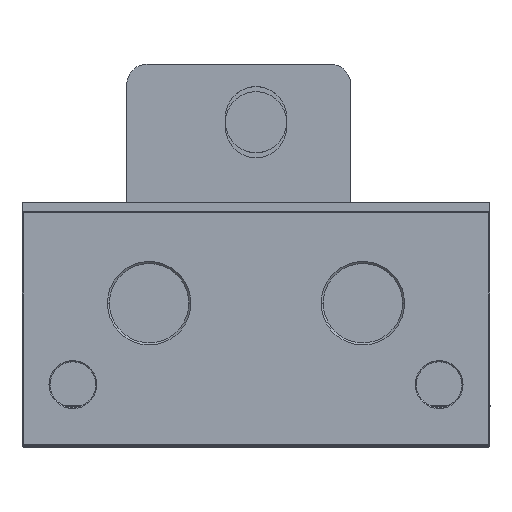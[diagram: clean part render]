
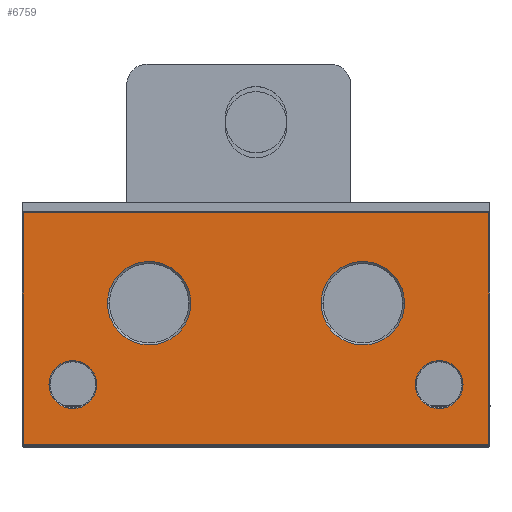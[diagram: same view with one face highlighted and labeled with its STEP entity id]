
A CAD part, top view. The second image highlights one B-rep face of the part: STEP entity #6759.
In plain terms, the highlighted planar face has unit normal (0, 0, 1).
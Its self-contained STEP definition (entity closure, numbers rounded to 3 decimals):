
#513 = VERTEX_POINT ( 'NONE', #12606 ) ;
#904 = CARTESIAN_POINT ( 'NONE',  ( 20.35, 6., 120. ) ) ;
#1653 = DIRECTION ( 'NONE',  ( -1., 0., 0. ) ) ;
#1689 = CARTESIAN_POINT ( 'NONE',  ( -23., 22.9, 120. ) ) ;
#1798 = CARTESIAN_POINT ( 'NONE',  ( -22.9, 0., 120. ) ) ;
#1845 = DIRECTION ( 'NONE',  ( 1., 0., 0. ) ) ;
#1902 = CARTESIAN_POINT ( 'NONE',  ( 23., 0.1, 120. ) ) ;
#1926 = DIRECTION ( 'NONE',  ( 0., -1., 0. ) ) ;
#1967 = CARTESIAN_POINT ( 'NONE',  ( 22.9, 23., 120. ) ) ;
#2096 = DIRECTION ( 'NONE',  ( 0., 1., 0. ) ) ;
#2328 = CARTESIAN_POINT ( 'NONE',  ( -22.9, 22.9, 120. ) ) ;
#2905 = EDGE_LOOP ( 'NONE', ( #16719, #16805 ) ) ;
#3133 = EDGE_LOOP ( 'NONE', ( #16790, #15668 ) ) ;
#3226 = AXIS2_PLACEMENT_3D ( 'NONE', #11288, #11227, #11263 ) ;
#3478 = AXIS2_PLACEMENT_3D ( 'NONE', #14433, #14291, #14289 ) ;
#4865 = CARTESIAN_POINT ( 'NONE',  ( -14.6, 14., 120. ) ) ;
#5250 = AXIS2_PLACEMENT_3D ( 'NONE', #12885, #12791, #12826 ) ;
#5260 = CARTESIAN_POINT ( 'NONE',  ( 15.65, 6., 120. ) ) ;
#5480 = AXIS2_PLACEMENT_3D ( 'NONE', #13500, #13484, #13465 ) ;
#5854 = CARTESIAN_POINT ( 'NONE',  ( -15.65, 6., 120. ) ) ;
#6621 = AXIS2_PLACEMENT_3D ( 'NONE', #14296, #14200, #14236 ) ;
#6759 = ADVANCED_FACE ( 'NONE', ( #14754, #14723, #14789, #14693, #14679 ), #14477, .F. ) ;
#6812 = AXIS2_PLACEMENT_3D ( 'NONE', #16075, #16060, #16042 ) ;
#7100 = EDGE_CURVE ( 'NONE', #11804, #10141, #13367, .T. ) ;
#7128 = VERTEX_POINT ( 'NONE', #11014 ) ;
#7259 = AXIS2_PLACEMENT_3D ( 'NONE', #16922, #16933, #16878 ) ;
#7281 = AXIS2_PLACEMENT_3D ( 'NONE', #17062, #17072, #17029 ) ;
#7366 = AXIS2_PLACEMENT_3D ( 'NONE', #17304, #17270, #17259 ) ;
#7527 = EDGE_LOOP ( 'NONE', ( #14435, #15106 ) ) ;
#8534 = VERTEX_POINT ( 'NONE', #17032 ) ;
#8617 = EDGE_LOOP ( 'NONE', ( #15075, #16277 ) ) ;
#8959 = VERTEX_POINT ( 'NONE', #12751 ) ;
#9455 = CIRCLE ( 'NONE', #5250, 2.35 ) ;
#9686 = CARTESIAN_POINT ( 'NONE',  ( -6.4, 14., 120. ) ) ;
#10141 = VERTEX_POINT ( 'NONE', #4865 ) ;
#10245 = CIRCLE ( 'NONE', #6621, 4.1 ) ;
#10300 = CIRCLE ( 'NONE', #7366, 2.35 ) ;
#10672 = CIRCLE ( 'NONE', #6812, 4.1 ) ;
#10959 = CIRCLE ( 'NONE', #7259, 4.1 ) ;
#11014 = CARTESIAN_POINT ( 'NONE',  ( 14.6, 14., 120. ) ) ;
#11142 = CIRCLE ( 'NONE', #5480, 2.35 ) ;
#11227 = DIRECTION ( 'NONE',  ( 0., 0., -1. ) ) ;
#11263 = DIRECTION ( 'NONE',  ( -1., 0., 0. ) ) ;
#11288 = CARTESIAN_POINT ( 'NONE',  ( -10.5, 14., 120. ) ) ;
#11573 = EDGE_CURVE ( 'NONE', #513, #8959, #13408, .T. ) ;
#11578 = EDGE_CURVE ( 'NONE', #11925, #513, #13378, .T. ) ;
#11599 = EDGE_CURVE ( 'NONE', #12619, #11925, #13180, .T. ) ;
#11603 = EDGE_CURVE ( 'NONE', #8959, #12619, #13329, .T. ) ;
#11804 = VERTEX_POINT ( 'NONE', #9686 ) ;
#11885 = EDGE_CURVE ( 'NONE', #16899, #15510, #10300, .T. ) ;
#11905 = EDGE_CURVE ( 'NONE', #14243, #12673, #12401, .T. ) ;
#11912 = EDGE_CURVE ( 'NONE', #8534, #7128, #10959, .T. ) ;
#11925 = VERTEX_POINT ( 'NONE', #17227 ) ;
#11958 = EDGE_CURVE ( 'NONE', #10141, #11804, #10672, .T. ) ;
#12064 = EDGE_CURVE ( 'NONE', #7128, #8534, #10245, .T. ) ;
#12108 = EDGE_CURVE ( 'NONE', #12673, #14243, #11142, .T. ) ;
#12152 = EDGE_CURVE ( 'NONE', #15510, #16899, #9455, .T. ) ;
#12399 = CARTESIAN_POINT ( 'NONE',  ( -20.35, 6., 120. ) ) ;
#12401 = CIRCLE ( 'NONE', #7281, 2.35 ) ;
#12606 = CARTESIAN_POINT ( 'NONE',  ( 22.9, 0.1, 120. ) ) ;
#12619 = VERTEX_POINT ( 'NONE', #2328 ) ;
#12673 = VERTEX_POINT ( 'NONE', #904 ) ;
#12751 = CARTESIAN_POINT ( 'NONE',  ( 22.9, 22.9, 120. ) ) ;
#12791 = DIRECTION ( 'NONE',  ( 0., 0., -1. ) ) ;
#12826 = DIRECTION ( 'NONE',  ( -1., 0., 0. ) ) ;
#12885 = CARTESIAN_POINT ( 'NONE',  ( -18., 6., 120. ) ) ;
#13040 = VECTOR ( 'NONE', #1653, 1000. ) ;
#13180 = LINE ( 'NONE', #1798, #13394 ) ;
#13212 = VECTOR ( 'NONE', #1845, 1000. ) ;
#13240 = VECTOR ( 'NONE', #2096, 1000. ) ;
#13329 = LINE ( 'NONE', #1689, #13040 ) ;
#13367 = CIRCLE ( 'NONE', #3226, 4.1 ) ;
#13378 = LINE ( 'NONE', #1902, #13212 ) ;
#13394 = VECTOR ( 'NONE', #1926, 1000. ) ;
#13408 = LINE ( 'NONE', #1967, #13240 ) ;
#13465 = DIRECTION ( 'NONE',  ( -1., 0., 0. ) ) ;
#13484 = DIRECTION ( 'NONE',  ( 0., 0., -1. ) ) ;
#13500 = CARTESIAN_POINT ( 'NONE',  ( 18., 6., 120. ) ) ;
#14200 = DIRECTION ( 'NONE',  ( 0., 0., -1. ) ) ;
#14236 = DIRECTION ( 'NONE',  ( -1., 0., 0. ) ) ;
#14243 = VERTEX_POINT ( 'NONE', #5260 ) ;
#14289 = DIRECTION ( 'NONE',  ( -1., 0., 0. ) ) ;
#14291 = DIRECTION ( 'NONE',  ( 0., 0., -1. ) ) ;
#14296 = CARTESIAN_POINT ( 'NONE',  ( 10.5, 14., 120. ) ) ;
#14433 = CARTESIAN_POINT ( 'NONE',  ( -23., 0., 120. ) ) ;
#14435 = ORIENTED_EDGE ( 'NONE', *, *, #12152, .T. ) ;
#14477 = PLANE ( 'NONE',  #3478 ) ;
#14679 = FACE_OUTER_BOUND ( 'NONE', #16041, .T. ) ;
#14693 = FACE_BOUND ( 'NONE', #8617, .T. ) ;
#14723 = FACE_BOUND ( 'NONE', #3133, .T. ) ;
#14754 = FACE_BOUND ( 'NONE', #2905, .T. ) ;
#14789 = FACE_BOUND ( 'NONE', #7527, .T. ) ;
#15075 = ORIENTED_EDGE ( 'NONE', *, *, #12108, .T. ) ;
#15106 = ORIENTED_EDGE ( 'NONE', *, *, #11885, .T. ) ;
#15510 = VERTEX_POINT ( 'NONE', #5854 ) ;
#15668 = ORIENTED_EDGE ( 'NONE', *, *, #11958, .T. ) ;
#15702 = ORIENTED_EDGE ( 'NONE', *, *, #11578, .T. ) ;
#15738 = ORIENTED_EDGE ( 'NONE', *, *, #11573, .T. ) ;
#16041 = EDGE_LOOP ( 'NONE', ( #16829, #16322, #15702, #15738 ) ) ;
#16042 = DIRECTION ( 'NONE',  ( -1., 0., 0. ) ) ;
#16060 = DIRECTION ( 'NONE',  ( 0., 0., -1. ) ) ;
#16075 = CARTESIAN_POINT ( 'NONE',  ( -10.5, 14., 120. ) ) ;
#16277 = ORIENTED_EDGE ( 'NONE', *, *, #11905, .T. ) ;
#16322 = ORIENTED_EDGE ( 'NONE', *, *, #11599, .T. ) ;
#16719 = ORIENTED_EDGE ( 'NONE', *, *, #12064, .T. ) ;
#16790 = ORIENTED_EDGE ( 'NONE', *, *, #7100, .T. ) ;
#16805 = ORIENTED_EDGE ( 'NONE', *, *, #11912, .T. ) ;
#16829 = ORIENTED_EDGE ( 'NONE', *, *, #11603, .T. ) ;
#16878 = DIRECTION ( 'NONE',  ( -1., 0., 0. ) ) ;
#16899 = VERTEX_POINT ( 'NONE', #12399 ) ;
#16922 = CARTESIAN_POINT ( 'NONE',  ( 10.5, 14., 120. ) ) ;
#16933 = DIRECTION ( 'NONE',  ( 0., 0., -1. ) ) ;
#17029 = DIRECTION ( 'NONE',  ( -1., 0., 0. ) ) ;
#17032 = CARTESIAN_POINT ( 'NONE',  ( 6.4, 14., 120. ) ) ;
#17062 = CARTESIAN_POINT ( 'NONE',  ( 18., 6., 120. ) ) ;
#17072 = DIRECTION ( 'NONE',  ( 0., 0., -1. ) ) ;
#17227 = CARTESIAN_POINT ( 'NONE',  ( -22.9, 0.1, 120. ) ) ;
#17259 = DIRECTION ( 'NONE',  ( -1., 0., 0. ) ) ;
#17270 = DIRECTION ( 'NONE',  ( 0., 0., -1. ) ) ;
#17304 = CARTESIAN_POINT ( 'NONE',  ( -18., 6., 120. ) ) ;
